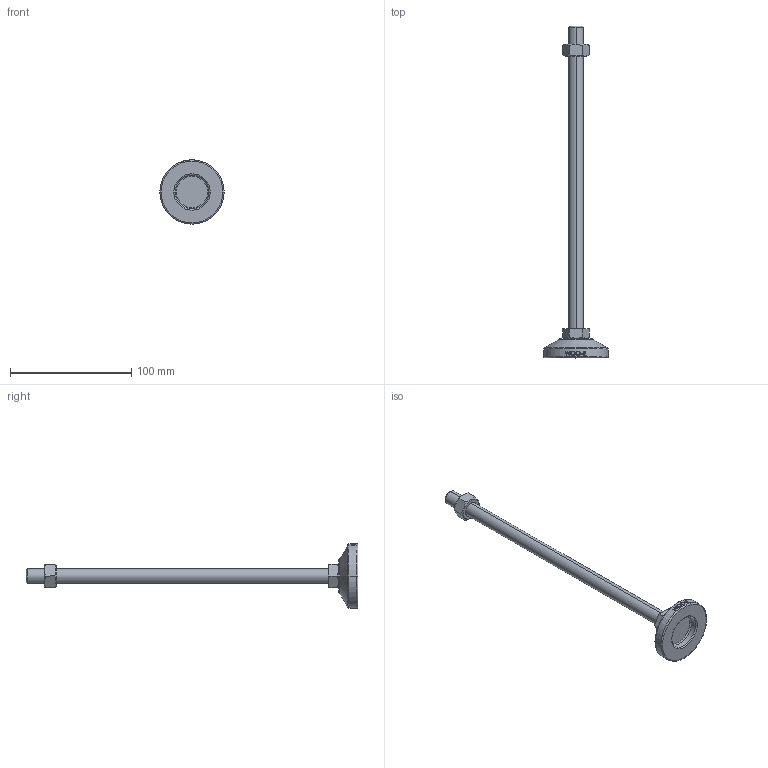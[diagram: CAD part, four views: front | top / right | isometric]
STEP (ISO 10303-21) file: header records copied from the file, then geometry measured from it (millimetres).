
FILE_DESCRIPTION (( 'STEP AP214' ), '1' );
FILE_NAME ('MF53-M12-250.step', '2021-02-03T08:16:37', ( '' ), ( '' ), 'SwSTEP 2.0', 'SolidWorks 2019', '' );
FILE_SCHEMA (( 'AUTOMOTIVE_DESIGN' ));
Length unit declared in the file: millimetre
Products named in the file (2): MF53-M12-250
Bounding box: 53 x 274 x 53 mm (x, y, z)
Volume: 56400.2 mm3; surface area: 18374.9 mm2
Topology: 3 solids, 3 shells, 106 faces, 243 edges, 154 vertices
Faces by surface type: plane 48, cylinder 18, bspline 16, cone 14, torus 10
Entity records: 4394 total; most frequent: CARTESIAN_POINT 2051, ORIENTED_EDGE 486, DIRECTION 439, EDGE_CURVE 243, AXIS2_PLACEMENT_3D 170, VERTEX_POINT 154, EDGE_LOOP 119, FACE_OUTER_BOUND 106
